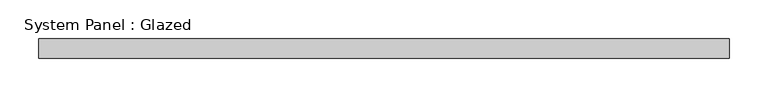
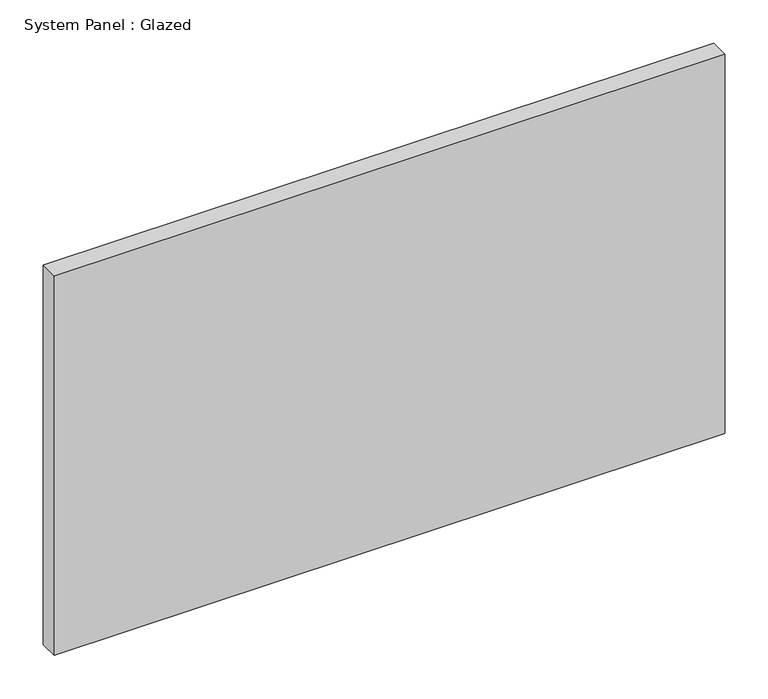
"""IFC4 building model written with IfcOpenShell, lengths in millimetres: plate geometry, System Panel : Glazed."""

from ifc_helpers import new_model, si_unit, origin, origin_with_axes, place, context, project, spatial, polyline, outline, extrude, source, transform, mapped, element, save


def system_panel_glazed_1e1b58fe(model_context):
    return source(origin(), model_context, "Body", "SweptSolid", [
        extrude(outline(polyline([(447.675, -44.45), (-447.675, -44.45), (-447.675, -19.05), (447.675, -19.05), (447.675, -44.45)])), origin_with_axes(), (0.0, 0.0, 1.0), 536.0475583),
    ])


if __name__ == "__main__":
    model = new_model("IFC4")
    model_context = context("Model", 3, world=origin())
    ifc_project = project(units=[si_unit("LENGTHUNIT", "METRE", prefix="MILLI")], contexts=[model_context])
    site = spatial("IfcSite", under=ifc_project)
    building = spatial("IfcBuilding", under=site)
    placement = place(None, origin())
    system_panel_glazed_shape = system_panel_glazed_1e1b58fe(model_context)
    element("IfcPlate", 1, ObjectType="System Panel : Glazed", at=placement, inside=building, context=model_context, shape_type="MappedRepresentation", body=[
        mapped(system_panel_glazed_shape, transform((0.0, 0.0, 0.0), x_axis=(1.0, 0.0, 0.0), y_axis=(0.0, 1.0, 0.0), z_axis=(0.0, 0.0, 1.0))),
    ])
    save(model, "model.ifc")
